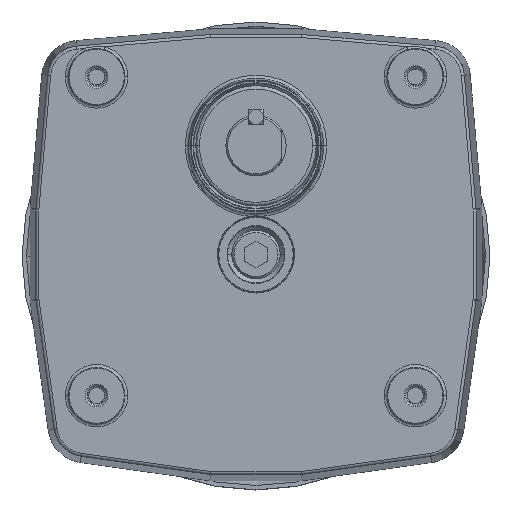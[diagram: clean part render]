
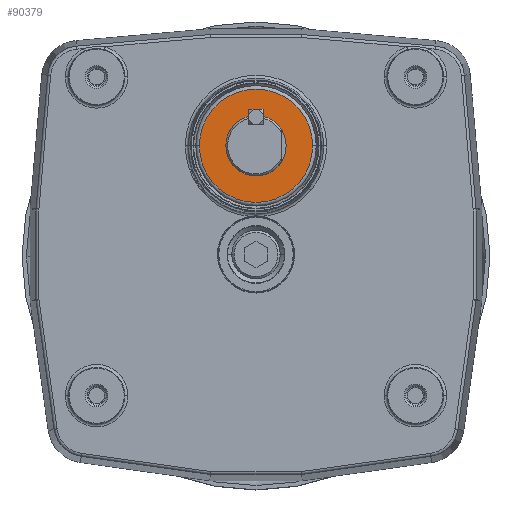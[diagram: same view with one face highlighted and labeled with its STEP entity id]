
A CAD part, top view. The second image highlights one B-rep face of the part: STEP entity #90379.
In plain terms, the highlighted planar face has unit normal (0, 0, 1).
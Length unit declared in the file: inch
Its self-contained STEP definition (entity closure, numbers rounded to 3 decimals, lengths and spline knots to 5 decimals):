
#604 = VERTEX_POINT ( 'NONE', #56438 ) ;
#4316 = EDGE_CURVE ( 'NONE', #31495, #71074, #43126, .T. ) ;
#6396 = CIRCLE ( 'NONE', #39388, 0.47 ) ;
#12472 = ORIENTED_EDGE ( 'NONE', *, *, #55674, .T. ) ;
#13558 = CARTESIAN_POINT ( 'NONE',  ( 0., 0.901, 2.688 ) ) ;
#15137 = FACE_BOUND ( 'NONE', #97355, .T. ) ;
#20413 = EDGE_LOOP ( 'NONE', ( #87544, #12472 ) ) ;
#21543 = DIRECTION ( 'NONE',  ( 0., 0., 1. ) ) ;
#22277 = DIRECTION ( 'NONE',  ( -1., 0., 0. ) ) ;
#25956 = DIRECTION ( 'NONE',  ( 0., 0., -1. ) ) ;
#31366 = CARTESIAN_POINT ( 'NONE',  ( 0., 0.901, 2.688 ) ) ;
#31495 = VERTEX_POINT ( 'NONE', #36622 ) ;
#31769 = ORIENTED_EDGE ( 'NONE', *, *, #4316, .F. ) ;
#35356 = CARTESIAN_POINT ( 'NONE',  ( -0.47, 0.901, 2.688 ) ) ;
#36622 = CARTESIAN_POINT ( 'NONE',  ( 0.25, 0.901, 2.688 ) ) ;
#37962 = AXIS2_PLACEMENT_3D ( 'NONE', #72898, #21543, #81500 ) ;
#39388 = AXIS2_PLACEMENT_3D ( 'NONE', #13558, #73616, #22277 ) ;
#40003 = DIRECTION ( 'NONE',  ( -1., 0., 0. ) ) ;
#40954 = AXIS2_PLACEMENT_3D ( 'NONE', #55117, #54754, #54380 ) ;
#43126 = CIRCLE ( 'NONE', #40954, 0.25 ) ;
#48909 = CARTESIAN_POINT ( 'NONE',  ( -0.25, 0.901, 2.688 ) ) ;
#48991 = ORIENTED_EDGE ( 'NONE', *, *, #53373, .F. ) ;
#53373 = EDGE_CURVE ( 'NONE', #71074, #31495, #77864, .T. ) ;
#54380 = DIRECTION ( 'NONE',  ( 1., 0., 0. ) ) ;
#54754 = DIRECTION ( 'NONE',  ( 0., 0., 1. ) ) ;
#55117 = CARTESIAN_POINT ( 'NONE',  ( 0., 0.901, 2.688 ) ) ;
#55674 = EDGE_CURVE ( 'NONE', #604, #110536, #108590, .T. ) ;
#56438 = CARTESIAN_POINT ( 'NONE',  ( 0.47, 0.901, 2.688 ) ) ;
#60043 = CARTESIAN_POINT ( 'NONE',  ( 0., 1.151, 2.688 ) ) ;
#71074 = VERTEX_POINT ( 'NONE', #48909 ) ;
#72898 = CARTESIAN_POINT ( 'NONE',  ( 0., 0.901, 2.688 ) ) ;
#73395 = EDGE_CURVE ( 'NONE', #110536, #604, #6396, .T. ) ;
#73616 = DIRECTION ( 'NONE',  ( 0., 0., 1. ) ) ;
#77864 = CIRCLE ( 'NONE', #37962, 0.25 ) ;
#78180 = FACE_OUTER_BOUND ( 'NONE', #20413, .T. ) ;
#81500 = DIRECTION ( 'NONE',  ( 1., 0., 0. ) ) ;
#85830 = DIRECTION ( 'NONE',  ( -1., 0., 0. ) ) ;
#87544 = ORIENTED_EDGE ( 'NONE', *, *, #73395, .T. ) ;
#90379 = ADVANCED_FACE ( 'NONE', ( #78180, #15137 ), #111235, .F. ) ;
#91292 = DIRECTION ( 'NONE',  ( 0., 0., 1. ) ) ;
#97355 = EDGE_LOOP ( 'NONE', ( #31769, #48991 ) ) ;
#99001 = AXIS2_PLACEMENT_3D ( 'NONE', #60043, #25956, #85830 ) ;
#108590 = CIRCLE ( 'NONE', #110362, 0.47 ) ;
#110362 = AXIS2_PLACEMENT_3D ( 'NONE', #31366, #91292, #40003 ) ;
#110536 = VERTEX_POINT ( 'NONE', #35356 ) ;
#111235 = PLANE ( 'NONE',  #99001 ) ;
